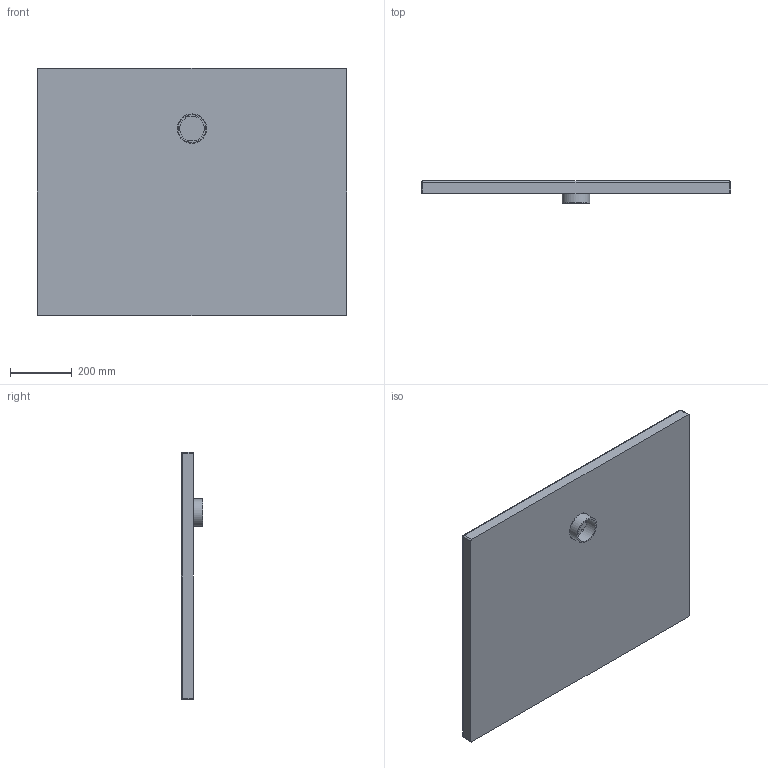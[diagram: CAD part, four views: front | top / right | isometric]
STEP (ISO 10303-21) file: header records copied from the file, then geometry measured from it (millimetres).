
FILE_DESCRIPTION (( 'STEP AP203' ), '1' );
FILE_NAME ('REPD10008040.STEP', '2025-05-06T09:57:00', ( '' ), ( '' ), 'SwSTEP 2.0', 'SolidWorks 2024', '' );
FILE_SCHEMA (( 'CONFIG_CONTROL_DESIGN' ));
Products named in the file (3): PILETTA PIATTI DOCCIA; REPD10008040
Assembly tree (2 placements, depth 2):
  REPD10008040
    REPD10008040
    PILETTA PIATTI DOCCIA
Bounding box: 1001.4 x 71 x 801.4 mm (x, y, z)
Volume: 27352738.7 mm3; surface area: 1789704.5 mm2
Topology: 2 solids, 2 shells, 655 faces, 1366 edges, 901 vertices
Faces by surface type: bspline 596, plane 28, cylinder 21, sphere 4, torus 4, cone 2
Full cylindrical faces by diameter (mm): 80 x1, 90 x1, 95 x1, 114 x1, 120 x1
Entity records: 169624 total; most frequent: CARTESIAN_POINT 161550, ORIENTED_EDGE 1538, EDGE_LOOP 1262, FACE_OUTER_BOUND 1052, EDGE_CURVE 769, VERTEX_POINT 707, ADVANCED_FACE 655, B_SPLINE_CURVE_WITH_KNOTS 613
